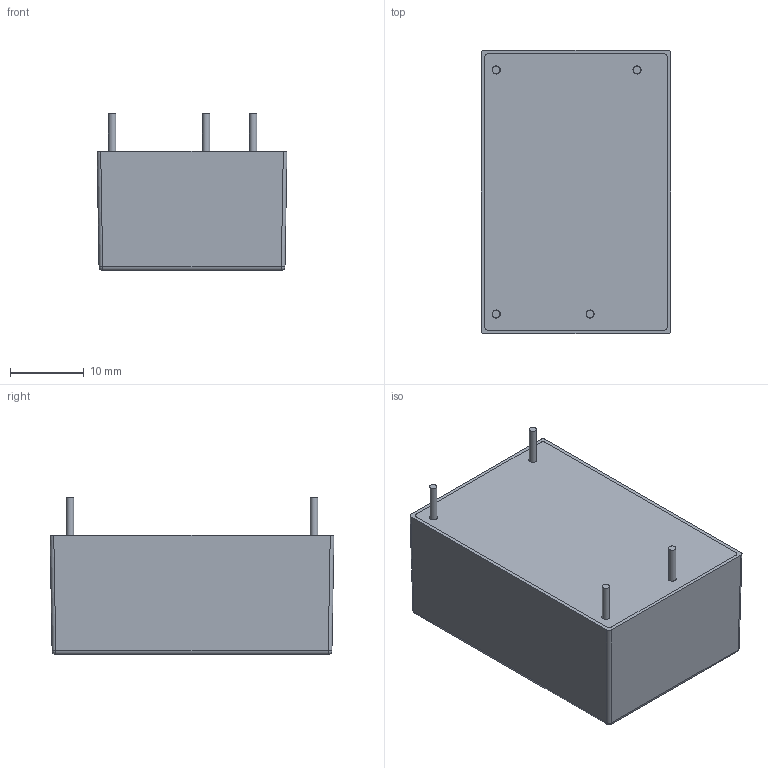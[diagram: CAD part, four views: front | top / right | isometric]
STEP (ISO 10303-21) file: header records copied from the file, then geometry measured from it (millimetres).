
FILE_DESCRIPTION(/* description */ (''),/* implementation_level */ '2;1');
FILE_NAME(/* name */ 'C:\Users\Calliope\Desktop\ACF-10.stp',/* time_stamp */ '2018-02-22T17:06:49+08:00',/* author */ ('Calliope'),/* organization */ (''),/* preprocessor_version */ 'ST-DEVELOPER v15.6',/* originating_system */ 'Autodesk Inventor 2015',/* authorisation */ '');
FILE_SCHEMA (('AUTOMOTIVE_DESIGN { 1 0 10303 214 3 1 1 }'));
Length unit declared in the file: millimetre
Products named in the file (1): ACF-10
Bounding box: 25.7 x 38.4 x 21.23 mm (x, y, z)
Volume: 15633.4 mm3; surface area: 4039.6 mm2
Topology: 1 solids, 1 shells, 51 faces, 118 edges, 80 vertices
Faces by surface type: plane 22, cylinder 21, cone 4, sphere 4
Full cylindrical faces by diameter (mm): 1 x4, 1.1 x4
Entity records: 1464 total; most frequent: DIRECTION 260, CARTESIAN_POINT 230, ORIENTED_EDGE 204, AXIS2_PLACEMENT_3D 106, EDGE_CURVE 102, VERTEX_POINT 76, EDGE_LOOP 74, STYLED_ITEM 52
